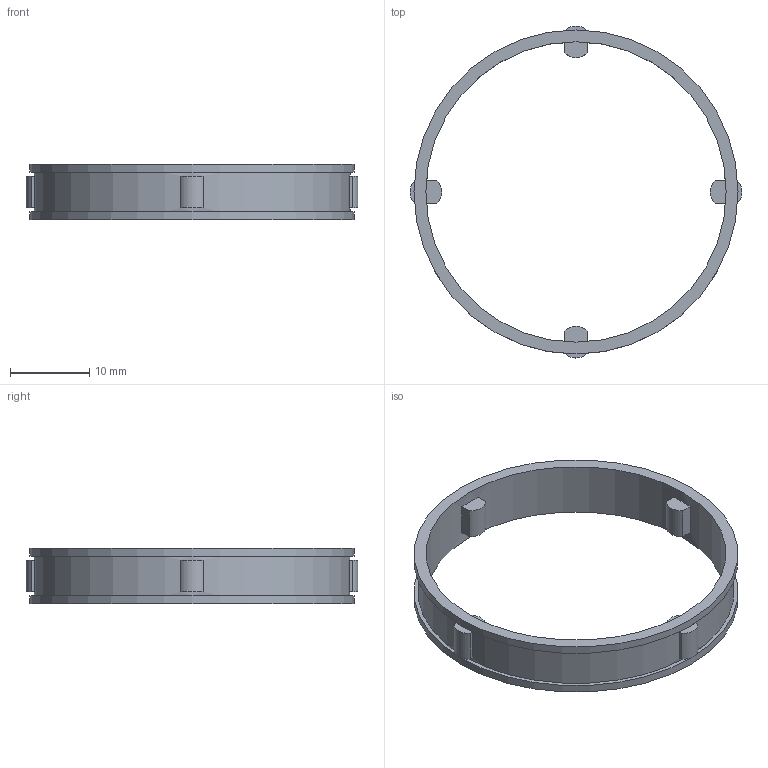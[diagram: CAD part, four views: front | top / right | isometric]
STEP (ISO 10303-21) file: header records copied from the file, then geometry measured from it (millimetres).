
FILE_DESCRIPTION(/* description */ (''),/* implementation_level */ '2;1');
FILE_NAME(/* name */ '300465 FE 442 Z2.stp',/* time_stamp */ '2016-11-03T14:04:02+01:00',/* author */ (''),/* organization */ (''),/* preprocessor_version */ 'ST-DEVELOPER v15',/* originating_system */ 'SIEMENS PLM Software NX 8.5',/* authorisation */ '');
FILE_SCHEMA (('CONFIG_CONTROL_DESIGN'));
Length unit declared in the file: millimetre
Products named in the file (1): ATE0000079_01
Bounding box: 42 x 42 x 7 mm (x, y, z)
Volume: 1107.3 mm3; surface area: 2348.5 mm2
Topology: 1 solids, 1 shells, 48 faces, 114 edges, 76 vertices
Faces by surface type: plane 36, cylinder 12
Full cylindrical faces by diameter (mm): 38 x1, 40 x1, 41 x2
Entity records: 1420 total; most frequent: DIRECTION 242, CARTESIAN_POINT 225, ORIENTED_EDGE 208, EDGE_CURVE 104, AXIS2_PLACEMENT_3D 89, VERTEX_POINT 72, LINE 64, VECTOR 64
